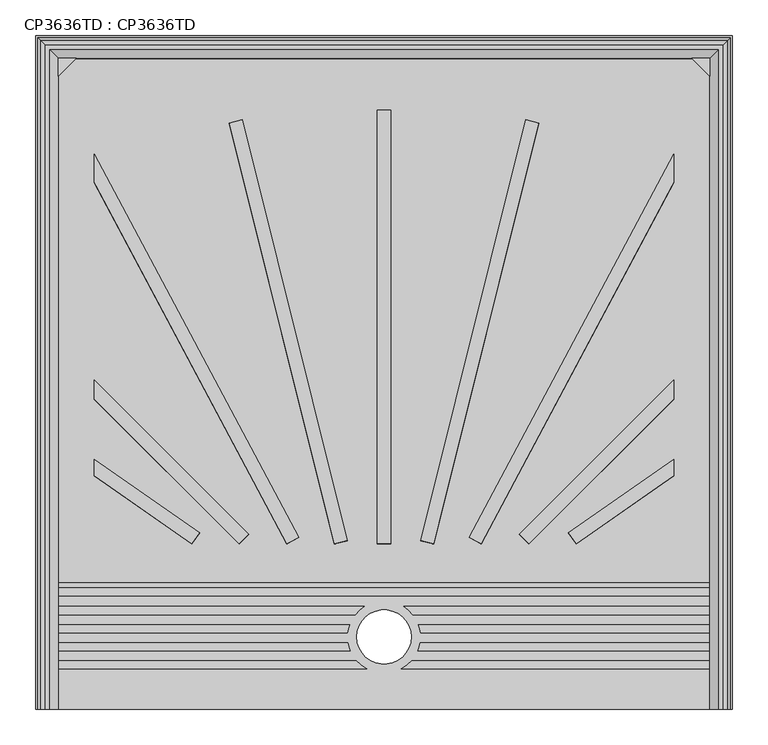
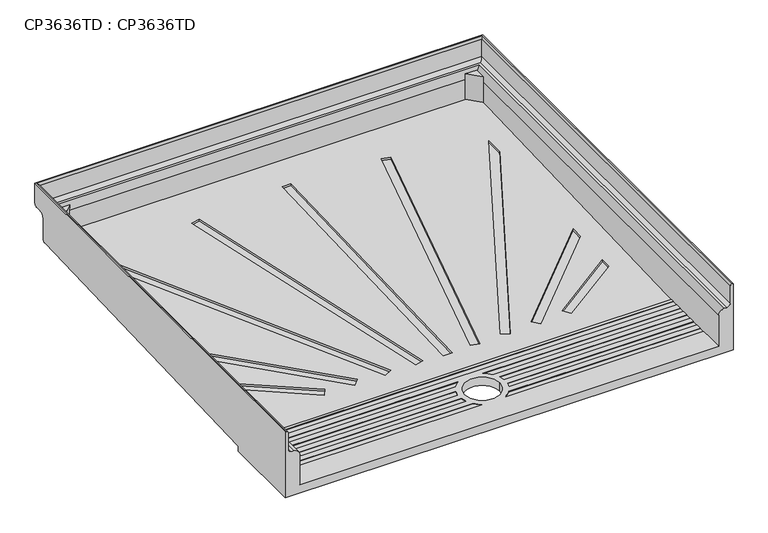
"""IFC4 building model written with IfcOpenShell, lengths in millimetres: flow terminal geometry, CP3636TD : CP3636TD."""

from ifc_helpers import new_model, si_unit, frame, origin, place, context, project, spatial, polyline, circle_curve, ellipse_curve, outline, extrude, faceted_brep, source, transform, mapped, element, save
from ifc_brep_helpers import plane_surface, cylinder_surface, revolved_surface, advanced_brep


def cp3636td_cp3636td_7ec2a112(model_context):
    return source(origin(), model_context, "Body", "SolidModel", [
        faceted_brep([(-457.2, -295.7541306, 17.2752835), (457.2, -295.7541306, 17.2752835), (457.2, 440.662662, 42.9267249), (-457.2, 440.662662, 42.9267249), (9.525, -240.8775758, 19.1867862), (-9.525, -240.8775758, 19.1867862), (-9.525, 368.3529398, 40.4079766), (9.525, 368.3529398, 40.4079766), (69.85, -240.8775758, 19.1867862), (51.3658664, -236.271757, 19.3472197), (198.841454, 354.8620085, 39.93805), (217.3255876, 350.2561898, 39.7776165), (136.525, -240.8775758, 19.1867862), (119.7048484, -231.9395632, 19.498122), (406.4, 306.9287846, 38.2684027), (406.4, 266.3758414, 36.8558311), (203.2, -240.8775758, 19.1867862), (189.7296158, -227.4153561, 19.6557127), (406.4, -10.876298, 27.1983693), (406.4, -37.8007373, 26.2605164), (269.875, -240.8775758, 19.1867862), (258.9483689, -225.2821876, 19.7300169), (406.4, -122.0980228, 23.3242079), (406.4, -145.3396832, 22.5146363), (-69.85, -240.8775758, 19.1867862), (-217.3255876, 350.2561898, 39.7776165), (-198.841454, 354.8620085, 39.93805), (-51.3658664, -236.271757, 19.3472197), (-136.525, -240.8775758, 19.1867862), (-406.4, 266.3758414, 36.8558311), (-406.4, 306.9287846, 38.2684027), (-119.7048484, -231.9395632, 19.498122), (-203.2, -240.8775758, 19.1867862), (-406.4, -37.8007373, 26.2605164), (-406.4, -10.876298, 27.1983693), (-189.7296158, -227.4153561, 19.6557127), (-269.875, -240.8775758, 19.1867862), (-406.4, -145.3396832, 22.5146363), (-406.4, -122.0980228, 23.3242079), (-258.9483689, -225.2821876, 19.7300169), (-457.2, -295.5735906, 12.0922338), (-457.2, 440.843202, 37.7436753), (457.2, 440.843202, 37.7436753), (457.2, -295.5735906, 12.0922338), (9.525, -240.7101399, 14.3799368), (9.525, 368.5203757, 35.6011271), (-9.525, 368.5203757, 35.6011271), (-9.525, -240.7101399, 14.3799368), (69.85, -240.7101399, 14.3799368), (217.3255876, 350.4236257, 34.9707671), (198.841454, 355.0294445, 35.1312005), (51.3658664, -236.1043211, 14.5403702), (136.525, -240.7101399, 14.3799368), (406.4, 266.5432773, 32.0489816), (406.4, 307.0962205, 33.4615532), (119.7048484, -231.7721273, 14.6912726), (203.2, -240.7101399, 14.3799368), (406.4, -37.6333014, 21.4536669), (406.4, -10.7088621, 22.3915199), (189.7296158, -227.2479202, 14.8488633), (269.875, -240.7101399, 14.3799368), (406.4, -145.1722473, 17.7077868), (406.4, -121.9305869, 18.5173584), (258.9483689, -225.1147517, 14.9231675), (-69.85, -240.7101399, 14.3799368), (-51.3658664, -236.1043211, 14.5403702), (-198.841454, 355.0294445, 35.1312005), (-217.3255876, 350.4236257, 34.9707671), (-136.525, -240.7101399, 14.3799368), (-119.7048484, -231.7721273, 14.6912726), (-406.4, 307.0962205, 33.4615532), (-406.4, 266.5432773, 32.0489816), (-203.2, -240.7101399, 14.3799368), (-189.7296158, -227.2479202, 14.8488633), (-406.4, -10.7088621, 22.3915199), (-406.4, -37.6333014, 21.4536669), (-269.875, -240.7101399, 14.3799368), (-258.9483689, -225.1147517, 14.9231675), (-406.4, -121.9305869, 18.5173584), (-406.4, -145.1722473, 17.7077868)], [[[0, 1, 2, 3], [4, 5, 6, 7], [8, 9, 10, 11], [12, 13, 14, 15], [16, 17, 18, 19], [20, 21, 22, 23], [24, 25, 26, 27], [28, 29, 30, 31], [32, 33, 34, 35], [36, 37, 38, 39]], [[40, 41, 42, 43]], [[1, 0, 40, 43]], [[2, 1, 43, 42]], [[3, 2, 42, 41]], [[0, 3, 41, 40]], [[44, 45, 46, 47]], [[48, 49, 50, 51]], [[52, 53, 54, 55]], [[56, 57, 58, 59]], [[60, 61, 62, 63]], [[64, 65, 66, 67]], [[68, 69, 70, 71]], [[72, 73, 74, 75]], [[76, 77, 78, 79]], [[44, 47, 5, 4]], [[47, 46, 6, 5]], [[46, 45, 7, 6]], [[45, 44, 4, 7]], [[48, 51, 9, 8]], [[51, 50, 10, 9]], [[50, 49, 11, 10]], [[49, 48, 8, 11]], [[52, 55, 13, 12]], [[55, 54, 14, 13]], [[54, 53, 15, 14]], [[53, 52, 12, 15]], [[56, 59, 17, 16]], [[59, 58, 18, 17]], [[58, 57, 19, 18]], [[57, 56, 16, 19]], [[60, 63, 21, 20]], [[63, 62, 22, 21]], [[62, 61, 23, 22]], [[61, 60, 20, 23]], [[64, 67, 25, 24]], [[67, 66, 26, 25]], [[66, 65, 27, 26]], [[65, 64, 24, 27]], [[68, 71, 29, 28]], [[71, 70, 30, 29]], [[70, 69, 31, 30]], [[69, 68, 28, 31]], [[72, 75, 33, 32]], [[75, 74, 34, 33]], [[74, 73, 35, 34]], [[73, 72, 32, 35]], [[76, 79, 37, 36]], [[79, 78, 38, 37]], [[78, 77, 39, 38]], [[77, 76, 36, 39]]]),
        extrude(outline(polyline([(457.2, 441.325), (457.2, 415.812735), (431.687735, 441.325), (457.2, 441.325)])), frame((0.0, 0.0, 42.148178), z_axis=(0.0, 0.0, 1.0), x_axis=(1.0, 0.0, 0.0)), (0.0, 0.0, 1.0), 59.451822),
        extrude(outline(polyline([(-457.2, 441.325), (-431.687735, 441.325), (-457.2, 415.812735), (-457.2, 441.325)])), frame((0.0, 0.0, 41.3020028), z_axis=(0.0, 0.0, 1.0), x_axis=(1.0, 0.0, 0.0)), (0.0, 0.0, 1.0), 60.2979972),
        advanced_brep(
        [(-457.2, -473.075, 19.05), (457.2, -473.075, 19.05), (457.2, -416.9171875, 19.05), (22.7078752, -416.9171875, 19.05), (38.8405607, -404.2171875, 19.05), (457.2, -404.2171875, 19.05), (457.2, -391.6164063, 19.05), (46.6365067, -391.6164063, 19.05), (50.2520196, -378.9164063, 19.05), (457.2, -378.9164063, 19.05), (457.2, -366.2164063, 19.05), (50.5270936, -366.2164062, 19.05), (47.5197739, -353.5164062, 19.05), (457.2, -353.5164063, 19.05), (457.2, -340.8164062, 19.05), (40.5054395, -340.8164062, 19.05), (26.4702162, -328.1164062, 19.05), (457.2, -328.1164063, 19.05), (457.2, -314.7943638, 19.05), (-457.2, -314.7943638, 19.05), (-457.2, -328.1164063, 19.05), (-26.4702162, -328.1164063, 19.05), (-40.5054395, -340.8164063, 19.05), (-457.2, -340.8164062, 19.05), (-457.2, -353.5164063, 19.05), (-47.5197739, -353.5164063, 19.05), (-50.5270936, -366.2164063, 19.05), (-457.2, -366.2164063, 19.05), (-457.2, -378.9164063, 19.05), (-50.2520196, -378.9164063, 19.05), (-46.6365067, -391.6164063, 19.05), (-457.2, -391.6164063, 19.05), (-457.2, -404.2171875, 19.05), (-38.8405607, -404.2171875, 19.05), (-22.7078752, -416.9171875, 19.05), (-457.2, -416.9171875, 19.05), (38.1, -371.475, 19.05), (-38.1, -371.475, 19.05), (457.2, -295.6152199, 19.05), (-457.2, -295.6152199, 19.05), (-457.2, -302.0943638, 19.05), (457.2, -302.0943638, 19.05), (-488.95, -473.075, 0.0), (-488.95, -295.275, 0.0), (-457.2, -295.275, 0.0), (-457.2, -295.6152199, 0.0), (457.2, -295.6152199, 0.0), (457.2, -295.275, 0.0), (488.95, -295.275, 0.0), (488.95, -473.075, 0.0), (38.1, -371.475, 0.0), (-38.1, -371.475, 0.0), (-457.2, -473.075, 88.9), (-469.9, -473.075, 101.6), (-475.4653473, -473.075, 101.6), (-482.6, -473.075, 108.7346527), (-482.6, -473.075, 148.247358), (-486.752642, -473.075, 152.4), (-488.95, -473.075, 152.4), (488.95, -473.075, 152.4), (486.752642, -473.075, 152.4), (482.6, -473.075, 148.247358), (482.6, -473.075, 108.7346527), (475.4653473, -473.075, 101.6), (469.9, -473.075, 101.6), (457.2, -473.075, 88.9), (457.2, -302.0943638, 17.5537948), (-457.2, -302.0943638, 17.5537948), (-457.2, -314.7943638, 17.5537948), (457.2, -314.7943638, 17.5537948), (-40.5054395, -340.8164063, 17.5537948), (-26.4702162, -328.1164063, 17.5537948), (-457.2, -328.1164063, 17.5537948), (-457.2, -340.8164062, 17.5537948), (26.4702162, -328.1164062, 17.5537948), (40.5054395, -340.8164062, 17.5537948), (457.2, -340.8164062, 17.5537948), (457.2, -328.1164063, 17.5537948), (-22.7078752, -416.9171875, 17.5537948), (-38.8405607, -404.2171875, 17.5537948), (-457.2, -404.2171875, 17.5537948), (-457.2, -416.9171875, 17.5537948), (38.8405607, -404.2171875, 17.5537948), (22.7078752, -416.9171875, 17.5537948), (457.2, -416.9171875, 17.5537948), (457.2, -404.2171875, 17.5537948), (-457.2, -366.2164063, 17.5537948), (-50.5270936, -366.2164063, 17.5537948), (-47.5197739, -353.5164063, 17.5537948), (-457.2, -353.5164063, 17.5537948), (457.2, -353.5164063, 17.5537948), (47.5197739, -353.5164063, 17.5537948), (50.5270936, -366.2164062, 17.5537948), (457.2, -366.2164063, 17.5537948), (-46.6365067, -391.6164063, 17.5537948), (-50.2520196, -378.9164063, 17.5537948), (-457.2, -378.9164063, 17.5537948), (-457.2, -391.6164063, 17.5537948), (50.2520196, -378.9164063, 17.5537948), (46.6365067, -391.6164063, 17.5537948), (457.2, -391.6164063, 17.5537948), (457.2, -378.9164063, 17.5537948), (-488.95, 473.075, 152.4), (-488.95, 473.075, 107.9409027), (-488.95, 465.9403473, 100.80625), (-488.95, 454.81875, 100.80625), (-488.95, 442.11875, 88.10625), (-488.95, 442.11875, 43.5546152), (-488.95, 435.9903618, 37.2084834), (-488.95, -295.275, 11.6721343), (-457.2, 441.325, 88.9), (-457.2, -295.275, 11.6721343), (-457.2, 435.9903618, 37.2084834), (-457.2, 441.325, 40.4804346), (-469.9, 454.025, 101.6), (469.9, 454.025, 101.6), (475.4653473, 459.5903473, 101.6), (-475.4653473, 459.5903473, 101.6), (-482.6, 466.725, 108.7346527), (-482.6, 466.725, 148.247358), (-486.752642, 470.877642, 152.4), (486.752642, 470.877642, 152.4), (488.95, 473.075, 152.4), (488.95, 473.075, 107.9409027), (457.2, 441.325, 88.9), (457.2, 441.325, 40.4804346), (482.6, 466.725, 108.7346527), (482.6, 466.725, 148.247358), (488.95, -295.275, 11.6721343), (488.95, 435.9903618, 37.2084834), (488.95, 442.11875, 43.5546152), (488.95, 442.11875, 88.10625), (488.95, 454.81875, 100.80625), (488.95, 465.9403473, 100.80625), (457.2, 435.9903618, 37.2084834), (457.2, -295.275, 11.6721343)],
        [
            (0, 1),
            (1, 2),
            (2, 3),
            (3, 4, circle_curve(frame((0.0, -371.475, 19.05), z_axis=(0.0, 0.0, 1.0), x_axis=(1.0, 0.0, 0.0)), 50.8)),
            (4, 5),
            (5, 6),
            (6, 7),
            (7, 8, circle_curve(frame((0.0, -371.475, 19.05), z_axis=(0.0, 0.0, 1.0), x_axis=(1.0, 0.0, 0.0)), 50.8)),
            (8, 9),
            (9, 10),
            (10, 11),
            (11, 12, circle_curve(frame((0.0, -371.475, 19.05), z_axis=(0.0, 0.0, 1.0), x_axis=(1.0, 0.0, 0.0)), 50.8)),
            (12, 13),
            (13, 14),
            (14, 15),
            (15, 16, circle_curve(frame((0.0, -371.475, 19.05), z_axis=(0.0, 0.0, 1.0), x_axis=(1.0, 0.0, 0.0)), 50.8)),
            (16, 17),
            (17, 18),
            (18, 19),
            (19, 20),
            (20, 21),
            (21, 22, circle_curve(frame((0.0, -371.475, 19.05), z_axis=(0.0, 0.0, 1.0), x_axis=(1.0, 0.0, 0.0)), 50.8)),
            (22, 23),
            (23, 24),
            (24, 25),
            (25, 26, circle_curve(frame((0.0, -371.475, 19.05), z_axis=(0.0, 0.0, 1.0), x_axis=(1.0, 0.0, 0.0)), 50.8)),
            (26, 27),
            (27, 28),
            (28, 29),
            (29, 30, circle_curve(frame((0.0, -371.475, 19.05), z_axis=(0.0, 0.0, 1.0), x_axis=(1.0, 0.0, 0.0)), 50.8)),
            (30, 31),
            (31, 32),
            (32, 33),
            (33, 34, circle_curve(frame((0.0, -371.475, 19.05), z_axis=(0.0, 0.0, 1.0), x_axis=(1.0, 0.0, 0.0)), 50.8)),
            (34, 35),
            (35, 0),
            (36, 37, circle_curve(frame((0.0, -371.475, 19.05), z_axis=(0.0, 0.0, -1.0), x_axis=(1.0, 0.0, 0.0)), 38.1)),
            (37, 36, circle_curve(frame((0.0, -371.475, 19.05), z_axis=(0.0, 0.0, -1.0), x_axis=(1.0, 0.0, 0.0)), 38.1)),
            (38, 39),
            (39, 40),
            (40, 41),
            (41, 38),
            (42, 43),
            (43, 44),
            (44, 45),
            (45, 46),
            (46, 47),
            (47, 48),
            (48, 49),
            (49, 42),
            (50, 51, circle_curve(frame((0.0, -371.475, 0.0), z_axis=(0.0, 0.0, 1.0), x_axis=(1.0, 0.0, 0.0)), 38.1)),
            (51, 50, circle_curve(frame((0.0, -371.475, 0.0), z_axis=(0.0, 0.0, 1.0), x_axis=(1.0, 0.0, 0.0)), 38.1)),
            (38, 46),
            (45, 39),
            (0, 52),
            (52, 53, circle_curve(frame((-469.9, -473.075, 88.9), z_axis=(0.0, -1.0, 0.0), x_axis=(1.0, 0.0, 0.0)), 12.7)),
            (53, 54),
            (54, 55, circle_curve(frame((-475.4653473, -473.075, 108.7346527), z_axis=(0.0, 1.0, 0.0), x_axis=(1.0, 0.0, 0.0)), 7.1346527)),
            (55, 56),
            (56, 57, circle_curve(frame((-486.752642, -473.075, 148.247358), z_axis=(0.0, -1.0, 0.0), x_axis=(1.0, 0.0, 0.0)), 4.152642)),
            (57, 58),
            (58, 42),
            (49, 59),
            (59, 60),
            (60, 61, circle_curve(frame((486.752642, -473.075, 148.247358), z_axis=(0.0, -1.0, 0.0), x_axis=(-1.0, 0.0, 0.0)), 4.152642)),
            (61, 62),
            (62, 63, circle_curve(frame((475.4653473, -473.075, 108.7346527), z_axis=(0.0, 1.0, 0.0), x_axis=(-1.0, 0.0, 0.0)), 7.1346527)),
            (63, 64),
            (64, 65, circle_curve(frame((469.9, -473.075, 88.9), z_axis=(0.0, -1.0, 0.0), x_axis=(-1.0, 0.0, 0.0)), 12.7)),
            (65, 1),
            (66, 67),
            (67, 68),
            (68, 69),
            (69, 66),
            (70, 71, circle_curve(frame((0.0, -371.475, 17.5537948), z_axis=(0.0, 0.0, -1.0), x_axis=(1.0, 0.0, 0.0)), 50.8)),
            (71, 72),
            (72, 73),
            (73, 70),
            (74, 75, circle_curve(frame((0.0, -371.475, 17.5537948), z_axis=(0.0, 0.0, -1.0), x_axis=(1.0, 0.0, 0.0)), 50.8)),
            (75, 76),
            (76, 77),
            (77, 74),
            (78, 79, circle_curve(frame((0.0, -371.475, 17.5537948), z_axis=(0.0, 0.0, -1.0), x_axis=(1.0, 0.0, 0.0)), 50.8)),
            (79, 80),
            (80, 81),
            (81, 78),
            (82, 83, circle_curve(frame((0.0, -371.475, 17.5537948), z_axis=(0.0, 0.0, -1.0), x_axis=(1.0, 0.0, 0.0)), 50.8)),
            (83, 84),
            (84, 85),
            (85, 82),
            (86, 87),
            (87, 88, circle_curve(frame((0.0, -371.475, 17.5537948), z_axis=(0.0, 0.0, -1.0), x_axis=(1.0, 0.0, 0.0)), 50.8)),
            (88, 89),
            (89, 86),
            (90, 91),
            (91, 92, circle_curve(frame((0.0, -371.475, 17.5537948), z_axis=(0.0, 0.0, -1.0), x_axis=(1.0, 0.0, 0.0)), 50.8)),
            (92, 93),
            (93, 90),
            (94, 95, circle_curve(frame((0.0, -371.475, 17.5537948), z_axis=(0.0, 0.0, -1.0), x_axis=(1.0, 0.0, 0.0)), 50.8)),
            (95, 96),
            (96, 97),
            (97, 94),
            (98, 99, circle_curve(frame((0.0, -371.475, 17.5537948), z_axis=(0.0, 0.0, -1.0), x_axis=(1.0, 0.0, 0.0)), 50.8)),
            (99, 100),
            (100, 101),
            (101, 98),
            (66, 41),
            (40, 67),
            (68, 19),
            (18, 69),
            (70, 22),
            (21, 71),
            (20, 72),
            (73, 23),
            (74, 16),
            (15, 75),
            (14, 76),
            (77, 17),
            (87, 26),
            (25, 88),
            (91, 12),
            (11, 92),
            (78, 34),
            (33, 79),
            (32, 80),
            (81, 35),
            (82, 4),
            (3, 83),
            (2, 84),
            (85, 5),
            (36, 50),
            (51, 37),
            (86, 27),
            (24, 89),
            (90, 13),
            (10, 93),
            (94, 30),
            (29, 95),
            (28, 96),
            (97, 31),
            (98, 8),
            (7, 99),
            (6, 100),
            (101, 9),
            (58, 102),
            (102, 103),
            (103, 104, circle_curve(frame((-488.95, 465.9403473, 107.9409027), z_axis=(-1.0, 0.0, 0.0), x_axis=(0.0, -1.0, 0.0)), 7.1346527)),
            (104, 105),
            (105, 106, circle_curve(frame((-488.95, 454.81875, 88.10625), z_axis=(1.0, 0.0, 0.0), x_axis=(0.0, -1.0, 0.0)), 12.7)),
            (106, 107),
            (107, 108, circle_curve(frame((-488.95, 435.76875, 43.5546152), z_axis=(-1.0, 0.0, 0.0), x_axis=(0.0, 1.0, 0.0)), 6.35)),
            (108, 109),
            (109, 43),
            (110, 52),
            (44, 111),
            (111, 112),
            (112, 113, circle_curve(frame((-457.2, 435.76875, 43.5546152), z_axis=(1.0, 0.0, 0.0), x_axis=(0.0, 1.0, 0.0)), 6.35)),
            (113, 110),
            (53, 114),
            (114, 115),
            (115, 64),
            (63, 116),
            (116, 117),
            (117, 54),
            (55, 118),
            (118, 119),
            (119, 56),
            (57, 120),
            (120, 121),
            (121, 60),
            (59, 122),
            (122, 102),
            (122, 123),
            (123, 103),
            (124, 110),
            (113, 125),
            (125, 124),
            (118, 126),
            (126, 127),
            (127, 119),
            (48, 128),
            (128, 129),
            (129, 130, circle_curve(frame((488.95, 435.76875, 43.5546152), z_axis=(1.0, 0.0, 0.0), x_axis=(0.0, 1.0, 0.0)), 6.35)),
            (130, 131),
            (131, 132, circle_curve(frame((488.95, 454.81875, 88.10625), z_axis=(-1.0, 0.0, 0.0), x_axis=(0.0, -1.0, 0.0)), 12.7)),
            (132, 133),
            (133, 123, circle_curve(frame((488.95, 465.9403473, 107.9409027), z_axis=(1.0, 0.0, 0.0), x_axis=(0.0, -1.0, 0.0)), 7.1346527)),
            (65, 124),
            (125, 134, circle_curve(frame((457.2, 435.76875, 43.5546152), z_axis=(-1.0, 0.0, 0.0), x_axis=(0.0, 1.0, 0.0)), 6.35)),
            (134, 135),
            (135, 47),
            (126, 62),
            (61, 127),
            (110, 114, ellipse_curve(frame((-469.9, 454.025, 88.9), z_axis=(-0.7071067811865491, -0.7071067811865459, 0.0), x_axis=(0.7071067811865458, -0.7071067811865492, 0.0)), 17.9605122, 12.7)),
            (117, 118, ellipse_curve(frame((-475.4653473, 459.5903473, 108.7346527), z_axis=(0.7071067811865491, 0.7071067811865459, 0.0), x_axis=(-0.7071067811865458, 0.7071067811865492, 0.0)), 10.0899226, 7.1346527)),
            (119, 120, ellipse_curve(frame((-486.752642, 470.877642, 148.247358), z_axis=(-0.7071067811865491, -0.7071067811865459, 0.0), x_axis=(0.7071067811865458, -0.7071067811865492, 0.0)), 5.8727227, 4.152642)),
            (124, 115, ellipse_curve(frame((469.9, 454.025, 88.9), z_axis=(-0.7071067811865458, 0.7071067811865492, 0.0), x_axis=(-0.7071067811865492, -0.7071067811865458, 0.0)), 17.9605122, 12.7)),
            (116, 126, ellipse_curve(frame((475.4653473, 459.5903473, 108.7346527), z_axis=(0.7071067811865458, -0.7071067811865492, 0.0), x_axis=(0.7071067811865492, 0.7071067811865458, 0.0)), 10.0899226, 7.1346527)),
            (127, 121, ellipse_curve(frame((486.752642, 470.877642, 148.247358), z_axis=(-0.7071067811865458, 0.7071067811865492, 0.0), x_axis=(-0.7071067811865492, -0.7071067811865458, 0.0)), 5.8727227, 4.152642)),
            (109, 111),
            (135, 128),
            (133, 104),
            (132, 105),
            (131, 106),
            (130, 107),
            (129, 134),
            (112, 108),
        ],
        [
            plane_surface(frame((457.2, -473.075, 19.05), z_axis=(0.0, 0.0, 1.0), x_axis=(0.0, 1.0, 0.0))),
            plane_surface(frame((457.2, -473.075, 0.0), z_axis=(0.0, 0.0, -1.0), x_axis=(0.0, -1.0, 0.0))),
            plane_surface(frame((457.2, -295.6152199, 19.05), z_axis=(0.0, 1.0, 0.0), x_axis=(0.0, 0.0, -1.0))),
            plane_surface(frame((-457.2, -473.075, 19.05), z_axis=(0.0, -1.0, 0.0), x_axis=(0.0, 0.0, -1.0))),
            plane_surface(frame((457.2, -457.7543943, 17.5537948), z_axis=(0.0, 0.0, 1.0), x_axis=(0.0, -1.0, 0.0))),
            plane_surface(frame((457.2, -302.0943638, 19.6452227), z_axis=(0.0, -1.0, 0.0), x_axis=(0.0, 0.0, -1.0))),
            plane_surface(frame((-457.2, -314.7943638, 19.6452227), z_axis=(0.0, 1.0, 0.0), x_axis=(0.0, 0.0, -1.0))),
            cylinder_surface(frame((0.0, -371.475, 0.0), z_axis=(0.0, 0.0, -1.0), x_axis=(1.0, 0.0, 0.0)), 50.8),
            plane_surface(frame((-26.4702162, -328.1164063, 19.6452227), z_axis=(0.0, -1.0, 0.0), x_axis=(0.0, 0.0, -1.0))),
            plane_surface(frame((-457.2, -340.8164062, 19.6452227), z_axis=(0.0, 1.0, 0.0), x_axis=(0.0, 0.0, -1.0))),
            plane_surface(frame((40.5054395, -340.8164062, 19.6452227), z_axis=(0.0, 1.0, 0.0), x_axis=(0.0, 0.0, -1.0))),
            plane_surface(frame((457.2, -328.1164063, 19.6452227), z_axis=(0.0, -1.0, 0.0), x_axis=(0.0, 0.0, -1.0))),
            plane_surface(frame((-38.8405607, -404.2171875, 19.6452227), z_axis=(0.0, -1.0, 0.0), x_axis=(0.0, 0.0, -1.0))),
            plane_surface(frame((-457.2, -416.9171875, 19.6452227), z_axis=(0.0, 1.0, 0.0), x_axis=(0.0, 0.0, -1.0))),
            plane_surface(frame((22.7078752, -416.9171875, 19.6452227), z_axis=(0.0, 1.0, 0.0), x_axis=(0.0, 0.0, -1.0))),
            plane_surface(frame((457.2, -404.2171875, 19.6452227), z_axis=(0.0, -1.0, 0.0), x_axis=(0.0, 0.0, -1.0))),
            revolved_surface(polyline([(38.1, -371.475, 0.0), (38.1, -371.475, 19.05)]), (0.0, -371.475, 0.0), (0.0, 0.0, -1.0)),
            plane_surface(frame((-457.2, -366.2164063, 19.6452227), z_axis=(0.0, 1.0, 0.0), x_axis=(0.0, 0.0, -1.0))),
            plane_surface(frame((-47.5197739, -353.5164063, 19.6452227), z_axis=(0.0, -1.0, 0.0), x_axis=(0.0, 0.0, -1.0))),
            plane_surface(frame((457.2, -353.5164063, 19.6452227), z_axis=(0.0, -1.0, 0.0), x_axis=(0.0, 0.0, -1.0))),
            plane_surface(frame((50.5270936, -366.2164062, 19.6452227), z_axis=(0.0, 1.0, 0.0), x_axis=(0.0, 0.0, -1.0))),
            plane_surface(frame((-50.2520196, -378.9164063, 19.6452227), z_axis=(0.0, -1.0, 0.0), x_axis=(0.0, 0.0, -1.0))),
            plane_surface(frame((-457.2, -391.6164063, 19.6452227), z_axis=(0.0, 1.0, 0.0), x_axis=(0.0, 0.0, -1.0))),
            plane_surface(frame((46.6365067, -391.6164063, 19.6452227), z_axis=(0.0, 1.0, 0.0), x_axis=(0.0, 0.0, -1.0))),
            plane_surface(frame((457.2, -378.9164063, 19.6452227), z_axis=(0.0, -1.0, 0.0), x_axis=(0.0, 0.0, -1.0))),
            plane_surface(frame((-488.95, -473.075, 152.4), z_axis=(-1.0, 0.0, 0.0), x_axis=(0.0, 1.0, 0.0))),
            plane_surface(frame((-457.2, -473.075, 0.0), z_axis=(1.0, 0.0, 0.0), x_axis=(0.0, 1.0, 0.0))),
            plane_surface(frame((-469.9, -473.075, 101.6), z_axis=(0.0, 0.0, 1.0), x_axis=(0.0, 1.0, 0.0))),
            plane_surface(frame((-482.6, -473.075, 108.7346527), z_axis=(1.0, 0.0, 0.0), x_axis=(0.0, 1.0, 0.0))),
            plane_surface(frame((-486.752642, -473.075, 152.4), z_axis=(0.0, 0.0, 1.0), x_axis=(0.0, 1.0, 0.0))),
            plane_surface(frame((-488.95, 473.075, 152.4), z_axis=(0.0, 1.0, 0.0), x_axis=(1.0, 0.0, 0.0))),
            plane_surface(frame((-457.2, 441.325, 0.0), z_axis=(0.0, -1.0, 0.0), x_axis=(1.0, 0.0, 0.0))),
            plane_surface(frame((-482.6, 466.725, 108.7346527), z_axis=(0.0, -1.0, 0.0), x_axis=(1.0, 0.0, 0.0))),
            plane_surface(frame((488.95, 473.075, 152.4), z_axis=(1.0, 0.0, 0.0), x_axis=(0.0, -1.0, 0.0))),
            plane_surface(frame((457.2, 441.325, 0.0), z_axis=(-1.0, 0.0, 0.0), x_axis=(0.0, -1.0, 0.0))),
            plane_surface(frame((482.6, 466.725, 108.7346527), z_axis=(-1.0, 0.0, 0.0), x_axis=(0.0, -1.0, 0.0))),
            cylinder_surface(frame((-469.9, -473.075, 88.9), z_axis=(0.0, -1.0, 0.0), x_axis=(1.0, 0.0, 0.0)), 12.7),
            revolved_surface(polyline([(-468.3306946, 466.72499999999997, 108.7346527), (-468.3306946, -473.075, 108.7346527)]), (-475.4653473, -473.075, 108.7346527), (0.0, 1.0, 0.0)),
            cylinder_surface(frame((-486.752642, -473.075, 148.247358), z_axis=(0.0, -1.0, 0.0), x_axis=(1.0, 0.0, 0.0)), 4.152642),
            cylinder_surface(frame((-488.95, 454.025, 88.9), z_axis=(-1.0, 0.0, 0.0), x_axis=(0.0, -1.0, 0.0)), 12.7),
            revolved_surface(polyline([(482.59999999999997, 452.4556946, 108.7346527), (-482.6, 452.4556946, 108.7346527)]), (-488.95, 459.5903473, 108.7346527), (1.0, 0.0, 0.0)),
            cylinder_surface(frame((-488.95, 470.877642, 148.247358), z_axis=(-1.0, 0.0, 0.0), x_axis=(0.0, -1.0, 0.0)), 4.152642),
            cylinder_surface(frame((469.9, 473.075, 88.9), z_axis=(0.0, 1.0, 0.0), x_axis=(-1.0, 0.0, 0.0)), 12.7),
            revolved_surface(polyline([(468.3306946, -473.075, 108.7346527), (468.3306946, 466.725, 108.7346527)]), (475.4653473, 473.075, 108.7346527), (0.0, -1.0, 0.0)),
            cylinder_surface(frame((486.752642, 473.075, 148.247358), z_axis=(0.0, 1.0, 0.0), x_axis=(-1.0, 0.0, 0.0)), 4.152642),
            plane_surface(frame((488.95, -295.275, 11.6721343), z_axis=(0.0, 1.0, 0.0), x_axis=(-1.0, 0.0, 0.0))),
            cylinder_surface(frame((-488.95, 465.9403473, 107.9409027), z_axis=(-1.0, 0.0, 0.0), x_axis=(0.0, -1.0, 0.0)), 7.1346527),
            plane_surface(frame((488.95, 465.9403473, 100.80625), z_axis=(0.0, 0.0, -1.0), x_axis=(-1.0, 0.0, 0.0))),
            revolved_surface(polyline([(488.95, 442.11875000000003, 88.10625), (-488.95, 442.11875000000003, 88.10625)]), (-488.95, 454.81875, 88.10625), (1.0, 0.0, 0.0)),
            plane_surface(frame((488.95, 442.11875, 88.10625), z_axis=(0.0, 1.0, 0.0), x_axis=(-1.0, 0.0, 0.0))),
            cylinder_surface(frame((-488.95, 435.76875, 43.5546152), z_axis=(-1.0, 0.0, 0.0), x_axis=(0.0, 1.0, 0.0)), 6.35),
            plane_surface(frame((488.95, 435.9903618, 37.2084834), z_axis=(0.0, 0.034899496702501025, -0.9993908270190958), x_axis=(-1.0, 0.0, 0.0))),
        ],
        [
            (0, [[1, 2, 3, 4, 5, 6, 7, 8, 9, 10, 11, 12, 13, 14, 15, 16, 17, 18, 19, 20, 21, 22, 23, 24, 25, 26, 27, 28, 29, 30, 31, 32, 33, 34, 35, 36], [37, 38]]),
            (0, [[39, 40, 41, 42]]),
            (1, [[43, 44, 45, 46, 47, 48, 49, 50], [51, 52]]),
            (2, [[-39, 53, -46, 54]]),
            (3, [[-1, 55, 56, 57, 58, 59, 60, 61, 62, -50, 63, 64, 65, 66, 67, 68, 69, 70]]),
            (4, [[71, 72, 73, 74]]),
            (4, [[75, 76, 77, 78]]),
            (4, [[79, 80, 81, 82]]),
            (4, [[83, 84, 85, 86]]),
            (4, [[87, 88, 89, 90]]),
            (4, [[91, 92, 93, 94]]),
            (4, [[95, 96, 97, 98]]),
            (4, [[99, 100, 101, 102]]),
            (4, [[103, 104, 105, 106]]),
            (5, [[-71, 107, -41, 108]]),
            (6, [[-73, 109, -19, 110]]),
            (7, [[-75, 111, -22, 112]]),
            (8, [[-76, -112, -21, 113]]),
            (9, [[-78, 114, -23, -111]]),
            (7, [[-79, 115, -16, 116]]),
            (10, [[-80, -116, -15, 117]]),
            (11, [[-82, 118, -17, -115]]),
            (7, [[-92, 119, -26, 120]]),
            (7, [[-96, 121, -12, 122]]),
            (7, [[-83, 123, -34, 124]]),
            (12, [[-84, -124, -33, 125]]),
            (13, [[-86, 126, -35, -123]]),
            (7, [[-87, 127, -4, 128]]),
            (14, [[-88, -128, -3, 129]]),
            (15, [[-90, 130, -5, -127]]),
            (16, [[-37, 131, -52, 132]]),
            (16, [[-38, -132, -51, -131]]),
            (17, [[-91, 133, -27, -119]]),
            (18, [[-93, -120, -25, 134]]),
            (19, [[-95, 135, -13, -121]]),
            (20, [[-97, -122, -11, 136]]),
            (7, [[-99, 137, -30, 138]]),
            (21, [[-100, -138, -29, 139]]),
            (22, [[-102, 140, -31, -137]]),
            (7, [[-103, 141, -8, 142]]),
            (23, [[-104, -142, -7, 143]]),
            (24, [[-106, 144, -9, -141]]),
            (25, [[-62, 145, 146, 147, 148, 149, 150, 151, 152, 153, -43]]),
            (26, [[154, -55, -36, -126, -85, -125, -32, -140, -101, -139, -28, -133, -94, -134, -24, -114, -77, -113, -20, -109, -72, -108, -40, -54, -45, 155, 156, 157, 158]]),
            (27, [[-57, 159, 160, 161, -68, 162, 163, 164]]),
            (28, [[-59, 165, 166, 167]]),
            (29, [[-61, 168, 169, 170, -64, 171, 172, -145]]),
            (30, [[-172, 173, 174, -146]]),
            (31, [[175, -158, 176, 177]]),
            (32, [[-166, 178, 179, 180]]),
            (33, [[-171, -63, -49, 181, 182, 183, 184, 185, 186, 187, -173]]),
            (34, [[188, -177, 189, 190, 191, -47, -53, -42, -107, -74, -110, -18, -118, -81, -117, -14, -135, -98, -136, -10, -144, -105, -143, -6, -130, -89, -129, -2, -70]]),
            (35, [[-179, 192, -66, 193]]),
            (36, [[-56, -154, 194, -159]]),
            (37, [[-58, -164, 195, -165]]),
            (38, [[-60, -167, 196, -168]]),
            (39, [[-160, -194, -175, 197]]),
            (40, [[-163, 198, -178, -195]]),
            (41, [[-169, -196, -180, 199]]),
            (42, [[-161, -197, -188, -69]]),
            (43, [[-162, -67, -192, -198]]),
            (44, [[-170, -199, -193, -65]]),
            (45, [[200, -155, -44, -153]]),
            (45, [[201, -181, -48, -191]]),
            (46, [[202, -147, -174, -187]]),
            (47, [[-202, -186, 203, -148]]),
            (48, [[-203, -185, 204, -149]]),
            (49, [[-204, -184, 205, -150]]),
            (50, [[-205, -183, 206, -189, -176, -157, 207, -151]]),
            (51, [[-200, -152, -207, -156]]),
            (51, [[-201, -190, -206, -182]]),
        ],
    ),
    ])


if __name__ == "__main__":
    model = new_model("IFC4")
    model_context = context("Model", 3, world=origin())
    ifc_project = project(units=[si_unit("LENGTHUNIT", "METRE", prefix="MILLI")], contexts=[model_context])
    site = spatial("IfcSite", under=ifc_project)
    building = spatial("IfcBuilding", under=site)
    placement = place(None, origin())
    cp3636td_cp3636td_shape = cp3636td_cp3636td_7ec2a112(model_context)
    element("IfcFlowTerminal", 1, ObjectType="CP3636TD : CP3636TD", at=placement, inside=building, context=model_context, shape_type="MappedRepresentation", body=[
        mapped(cp3636td_cp3636td_shape, transform((0.0, 0.0, 0.0), x_axis=(1.0, 0.0, 0.0), y_axis=(0.0, 1.0, 0.0), z_axis=(0.0, 0.0, 1.0))),
    ])
    save(model, "model.ifc")
